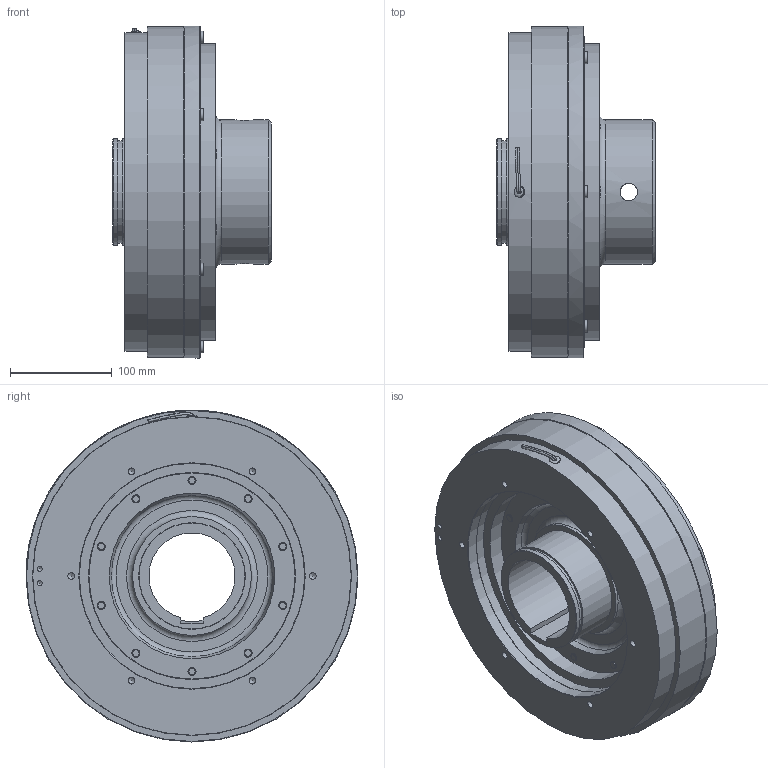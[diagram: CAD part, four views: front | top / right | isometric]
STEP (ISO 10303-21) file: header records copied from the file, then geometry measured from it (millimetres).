
FILE_DESCRIPTION(/* description */ (''),/* implementation_level */ '2;1');
FILE_NAME(/* name */ 'X:\INVENTOR\DISEGNI\08_Freni_Friz_Elettmag_Monodisco\08_26 EMSL_DF\EMSL_DF STEP\08_26_310_22 EMSL310_DF-BM-ME@STEP.stp',/* time_stamp */ '2018-04-24T09:08:22+02:00',/* author */ ('stefano'),/* organization */ (''),/* preprocessor_version */ 'ST-DEVELOPER v17',/* originating_system */ 'Autodesk Inventor 2018',/* authorisation */ '');
FILE_SCHEMA (('AUTOMOTIVE_DESIGN { 1 0 10303 214 3 1 1 }'));
Length unit declared in the file: millimetre
Products named in the file (1): 08_26_310_22 EMSL310_DF-BM-ME_Substitute_1
Bounding box: 156 x 327 x 327 mm (x, y, z)
Volume: 4753465.8 mm3; surface area: 774889.7 mm2
Topology: 3 solids, 3 shells, 644 faces, 1885 edges, 1303 vertices
Faces by surface type: cylinder 331, plane 210, cone 81, torus 19, bspline 3
Full cylindrical faces by diameter (mm): 3 x12, 4 x1, 4.917 x2, 6.647 x6, 8 x10, 8.1 x12, 8.376 x6, 12 x12, 13 x10, 15 x12, 16 x6, 17.294 x2, 35 x6, 65 x6, 101 x1, 105 x2, 117 x1, 142 x1, 170 x1, 203 x1, 204 x2, 214 x1, 222 x1, 222.4 x1, 223 x1, 238 x1, 292 x1, 300 x1, 313.6 x1, 314.2 x1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
Entity records: 23065 total; most frequent: CARTESIAN_POINT 4661, DIRECTION 4116, ORIENTED_EDGE 3724, EDGE_CURVE 1862, AXIS2_PLACEMENT_3D 1747, VERTEX_POINT 1303, CIRCLE 1103, EDGE_LOOP 849
